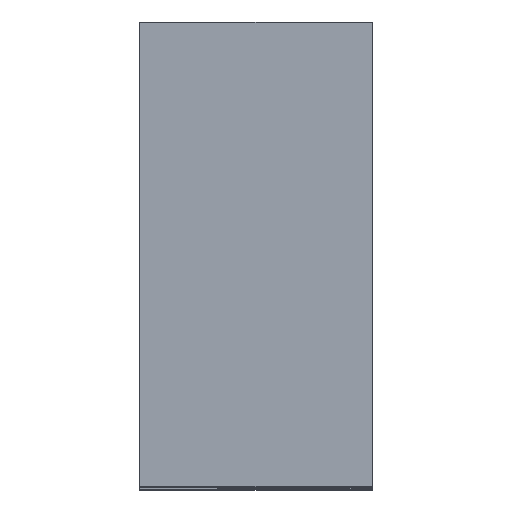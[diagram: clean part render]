
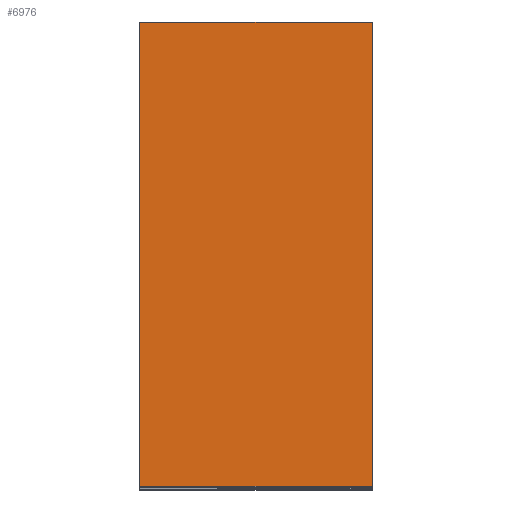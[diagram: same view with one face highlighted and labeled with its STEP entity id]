
A CAD part, top view. The second image highlights one B-rep face of the part: STEP entity #6976.
In plain terms, the highlighted planar face has unit normal (0, 0, 1).
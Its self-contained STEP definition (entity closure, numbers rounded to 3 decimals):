
#459=PLANE('',#7755);
#810=FACE_OUTER_BOUND('',#1379,.T.);
#1379=EDGE_LOOP('',(#5660,#5661,#5662,#5663));
#1821=LINE('',#11344,#2312);
#1850=LINE('',#11489,#2341);
#1878=LINE('',#11639,#2369);
#1879=LINE('',#11641,#2370);
#2312=VECTOR('',#9141,10.);
#2341=VECTOR('',#9322,10.);
#2369=VECTOR('',#9514,10.);
#2370=VECTOR('',#9517,10.);
#3321=VERTEX_POINT('',#11341);
#3322=VERTEX_POINT('',#11343);
#3361=VERTEX_POINT('',#11485);
#3362=VERTEX_POINT('',#11487);
#4053=EDGE_CURVE('',#3321,#3322,#1821,.T.);
#4120=EDGE_CURVE('',#3361,#3362,#1850,.T.);
#4188=EDGE_CURVE('',#3362,#3322,#1878,.T.);
#4189=EDGE_CURVE('',#3321,#3361,#1879,.T.);
#5660=ORIENTED_EDGE('',*,*,#4189,.T.);
#5661=ORIENTED_EDGE('',*,*,#4120,.T.);
#5662=ORIENTED_EDGE('',*,*,#4188,.T.);
#5663=ORIENTED_EDGE('',*,*,#4053,.F.);
#6976=ADVANCED_FACE('',(#810),#459,.T.);
#7755=AXIS2_PLACEMENT_3D('',#11640,#9515,#9516);
#9141=DIRECTION('',(-1.,0.,0.));
#9322=DIRECTION('',(-1.,0.,0.));
#9514=DIRECTION('',(0.,-1.,0.));
#9515=DIRECTION('center_axis',(0.,0.,1.));
#9516=DIRECTION('ref_axis',(0.,1.,0.));
#9517=DIRECTION('',(0.,1.,0.));
#11341=CARTESIAN_POINT('',(8.,-30.,212.5));
#11343=CARTESIAN_POINT('',(-22.,-30.,212.5));
#11344=CARTESIAN_POINT('',(8.,-30.,212.5));
#11485=CARTESIAN_POINT('',(8.,30.,212.5));
#11487=CARTESIAN_POINT('',(-22.,30.,212.5));
#11489=CARTESIAN_POINT('',(8.,30.,212.5));
#11639=CARTESIAN_POINT('',(-22.,-15.,212.5));
#11640=CARTESIAN_POINT('Origin',(8.,-30.,212.5));
#11641=CARTESIAN_POINT('',(8.,-30.,212.5));
